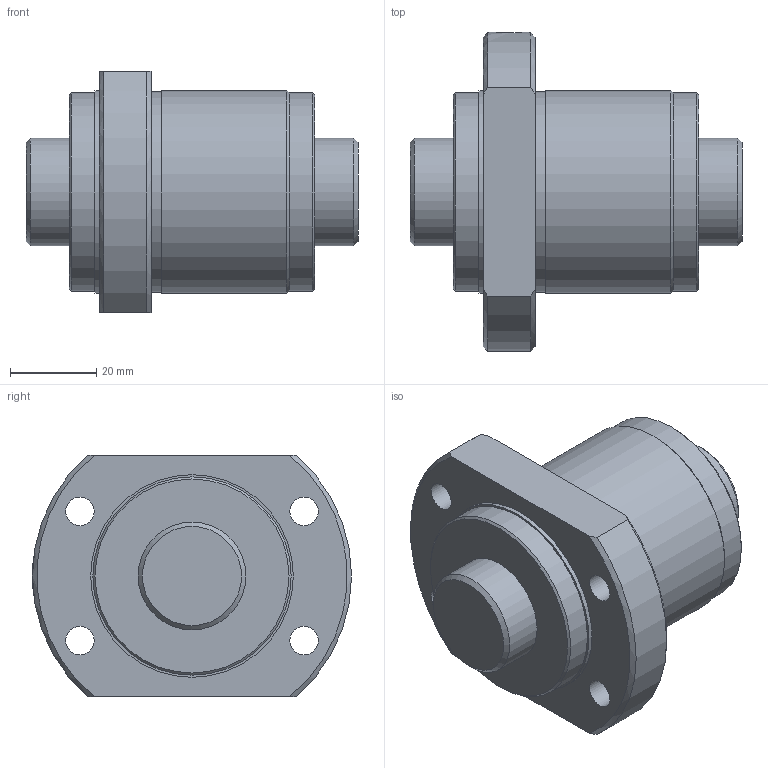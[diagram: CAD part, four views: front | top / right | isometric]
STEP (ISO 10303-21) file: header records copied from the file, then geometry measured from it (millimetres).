
FILE_DESCRIPTION(/* description */ ('STEP AP203'),/* implementation_level */ '2;1');
FILE_NAME(/* name */ 'SBK2520-3.6RRG0+77LC0(0000)',/* time_stamp */ '2024-05-28T11:19:47+02:00',/* author */ ('License CC BY-ND 4.0'),/* organization */ ('CADENAS'),/* preprocessor_version */ 'ST-DEVELOPER v19.3',/* originating_system */ 'PARTsolutions',/* authorisation */ ' ');
FILE_SCHEMA (('CONFIG_CONTROL_DESIGN'));
Length unit declared in the file: millimetre
Products named in the file (3): SBK2520-3.6RRG0+77LC0(0000); NRR000SBK 2520-3.60Shaft; NRR000SBK 2520-3.6Nut
Assembly tree (2 placements, depth 2):
  SBK2520-3.6RRG0+77LC0(0000)
    NRR000SBK 2520-3.60Shaft
    NRR000SBK 2520-3.6Nut
Bounding box: 77 x 74 x 56 mm (x, y, z)
Volume: 129176.7 mm3; surface area: 27873.1 mm2
Topology: 2 solids, 2 shells, 35 faces, 74 edges, 47 vertices
Faces by surface type: cylinder 14, cone 11, plane 10
Full cylindrical faces by diameter (mm): 4.917 x1, 6.6 x4, 25 x2, 46 x2, 46.6 x1, 47 x2
Entity records: 950 total; most frequent: CARTESIAN_POINT 171, DIRECTION 156, ORIENTED_EDGE 106, AXIS2_PLACEMENT_3D 74, FACE_BOUND 69, EDGE_LOOP 68, EDGE_CURVE 53, VERTEX_POINT 46
